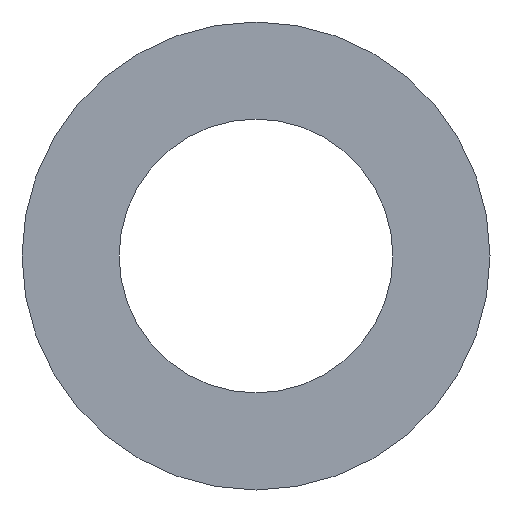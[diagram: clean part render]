
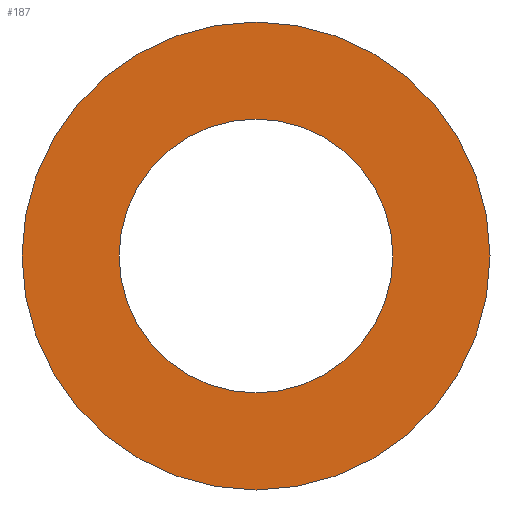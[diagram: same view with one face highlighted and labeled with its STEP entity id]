
A CAD part, front view. The second image highlights one B-rep face of the part: STEP entity #187.
In plain terms, the highlighted planar face has unit normal (0, -1, 0).
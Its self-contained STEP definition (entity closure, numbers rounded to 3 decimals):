
#84=CARTESIAN_POINT('',(-4.7,0.,0.0));
#85=VERTEX_POINT('',#84);
#86=CARTESIAN_POINT('',(0.0,0.,0.0));
#87=DIRECTION('',(0.0,1.0,0.0));
#88=DIRECTION('',(-1.0,0.0,0.0));
#89=AXIS2_PLACEMENT_3D('',#86,#87,#88);
#90=CIRCLE('',#89,4.7);
#91=EDGE_CURVE('',#85,#85,#90,.T.);
#161=CARTESIAN_POINT('',(-2.75,0.,0.0));
#162=VERTEX_POINT('',#161);
#163=CARTESIAN_POINT('',(0.0,0.,0.0));
#164=DIRECTION('',(0.0,1.0,0.0));
#165=DIRECTION('',(-1.0,0.0,0.0));
#166=AXIS2_PLACEMENT_3D('',#163,#164,#165);
#167=CIRCLE('',#166,2.75);
#168=EDGE_CURVE('',#162,#162,#167,.T.);
#176=CARTESIAN_POINT('',(-3.725,0.,0.0));
#177=DIRECTION('',(0.0,-1.0,0.0));
#178=DIRECTION('',(0.0,0.0,-1.0));
#179=AXIS2_PLACEMENT_3D('',#176,#177,#178);
#180=PLANE('',#179);
#181=ORIENTED_EDGE('',*,*,#91,.F.);
#182=EDGE_LOOP('',(#181));
#183=FACE_OUTER_BOUND('',#182,.T.);
#184=ORIENTED_EDGE('',*,*,#168,.T.);
#185=EDGE_LOOP('',(#184));
#186=FACE_BOUND('',#185,.T.);
#187=ADVANCED_FACE('',(#183,#186),#180,.T.);
